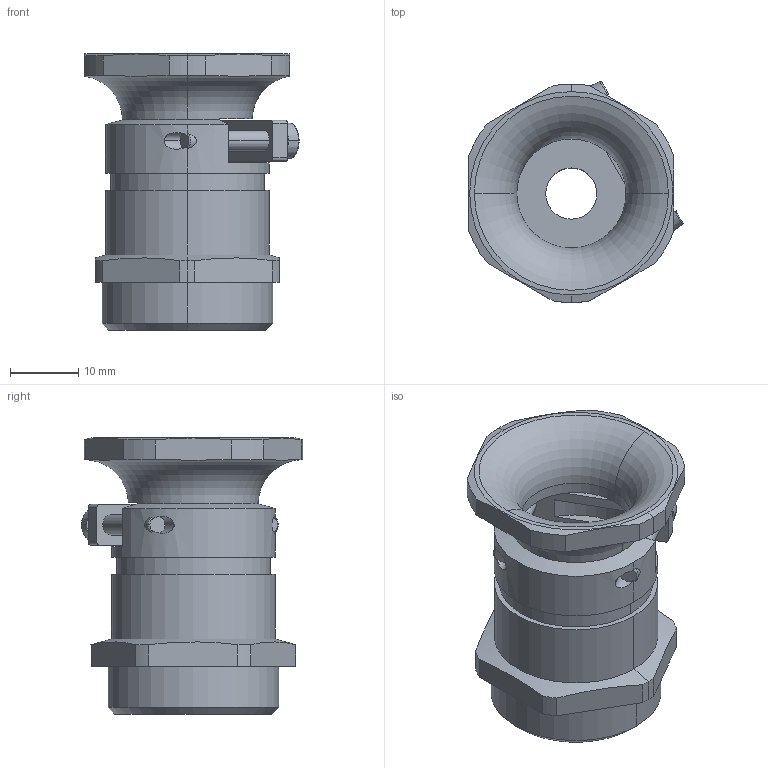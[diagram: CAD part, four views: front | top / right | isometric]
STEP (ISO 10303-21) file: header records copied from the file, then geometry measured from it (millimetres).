
FILE_DESCRIPTION (( 'STEP AP203' ), '1' );
FILE_NAME ('23.616M25.STEP', '2006-08-01T10:47:28', ( ' ' ), ( '' ), 'SwSTEP 2.0', 'SolidWorks 2005278', '' );
FILE_SCHEMA (( 'CONFIG_CONTROL_DESIGN' ));
Length unit declared in the file: millimetre
Products named in the file (1): 23.616M25
Bounding box: 31.36 x 32.4 x 40.5 mm (x, y, z)
Volume: 10930.5 mm3; surface area: 7227 mm2
Topology: 1 solids, 1 shells, 155 faces, 408 edges, 264 vertices
Faces by surface type: plane 84, cylinder 45, cone 16, torus 10
Entity records: 5091 total; most frequent: CARTESIAN_POINT 1134, ORIENTED_EDGE 816, DIRECTION 814, EDGE_CURVE 408, AXIS2_PLACEMENT_3D 296, VERTEX_POINT 264, VECTOR 222, LINE 222
